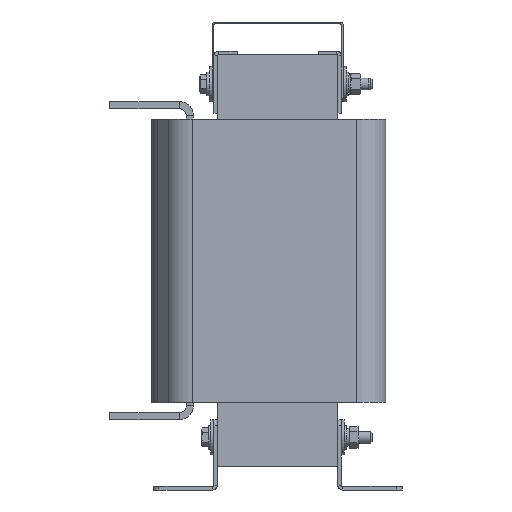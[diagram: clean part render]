
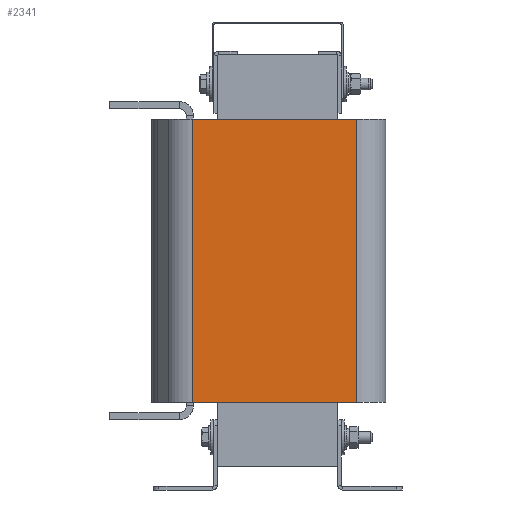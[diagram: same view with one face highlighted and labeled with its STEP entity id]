
A CAD part, left-side view. The second image highlights one B-rep face of the part: STEP entity #2341.
In plain terms, the highlighted planar face has unit normal (-1, 0, 0).
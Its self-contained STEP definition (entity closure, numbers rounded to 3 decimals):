
#2341=ADVANCED_FACE('',(#3435),#3437,.T.);
#3435=FACE_BOUND('',#3436,.T.);
#3436=EDGE_LOOP('',(#4685,#4686,#4687,#4688));
#3437=PLANE('',#3438);
#3438=AXIS2_PLACEMENT_3D('',#3439,#3440,#3441);
#3439=CARTESIAN_POINT('',(-53.75,70.575,0.));
#3440=DIRECTION('',(-1.,0.,0.));
#3441=DIRECTION('',(0.,-1.,0.));
#4685=ORIENTED_EDGE('',*,*,#5284,.T.);
#4686=ORIENTED_EDGE('',*,*,#5320,.T.);
#4687=ORIENTED_EDGE('',*,*,#5289,.F.);
#4688=ORIENTED_EDGE('',*,*,#5309,.F.);
#5284=EDGE_CURVE('',#5769,#5789,#5791,.T.);
#5289=EDGE_CURVE('',#5800,#5801,#5802,.T.);
#5309=EDGE_CURVE('',#5769,#5800,#5836,.T.);
#5320=EDGE_CURVE('',#5789,#5801,#5847,.T.);
#5769=VERTEX_POINT('',#6741);
#5789=VERTEX_POINT('',#6786);
#5791=LINE('',#6791,#6792);
#5800=VERTEX_POINT('',#6810);
#5801=VERTEX_POINT('',#6811);
#5802=LINE('',#6812,#6813);
#5836=LINE('',#6892,#6893);
#5847=LINE('',#6925,#6926);
#6741=CARTESIAN_POINT('',(-53.75,70.575,0.));
#6786=CARTESIAN_POINT('',(-53.75,-70.,0.));
#6791=CARTESIAN_POINT('',(-53.75,70.575,0.));
#6792=VECTOR('',#6793,1.);
#6793=DIRECTION('',(0.,-1.,0.));
#6810=CARTESIAN_POINT('',(-53.75,70.575,242.));
#6811=CARTESIAN_POINT('',(-53.75,-70.,242.));
#6812=CARTESIAN_POINT('',(-53.75,70.575,242.));
#6813=VECTOR('',#6814,1.);
#6814=DIRECTION('',(0.,-1.,0.));
#6892=CARTESIAN_POINT('',(-53.75,70.575,0.));
#6893=VECTOR('',#6894,1.);
#6894=DIRECTION('',(0.,0.,1.));
#6925=CARTESIAN_POINT('',(-53.75,-70.,0.));
#6926=VECTOR('',#6927,1.);
#6927=DIRECTION('',(0.,0.,1.));
